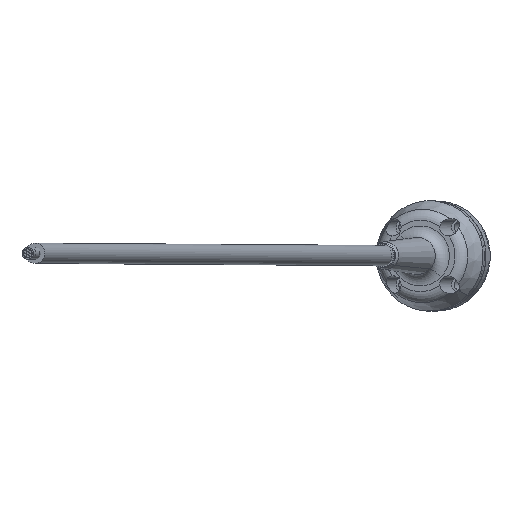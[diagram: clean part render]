
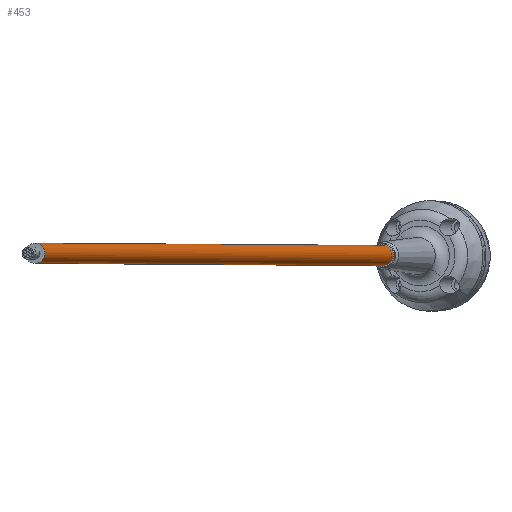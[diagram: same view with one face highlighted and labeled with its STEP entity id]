
A CAD part, top view. The second image highlights one B-rep face of the part: STEP entity #453.
In plain terms, the highlighted cylindrical face has radius 3.5 mm (diameter 7 mm), a partial arc.
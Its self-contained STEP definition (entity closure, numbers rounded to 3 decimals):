
#251 = EDGE_CURVE ( 'NONE', #252, #253, #2246, .T. ) ;
#252 = VERTEX_POINT ( 'NONE', #2247 ) ;
#253 = VERTEX_POINT ( 'NONE', #2289 ) ;
#254 = ORIENTED_EDGE ( 'NONE', *, *, #698, .T. ) ;
#255 = VERTEX_POINT ( 'NONE', #2322 ) ;
#453 = ADVANCED_FACE ( 'NONE', ( #2874 ), #2973, .T. ) ;
#454 = EDGE_LOOP ( 'NONE', ( #455, #254, #699, #721 ) ) ;
#455 = ORIENTED_EDGE ( 'NONE', *, *, #251, .T. ) ;
#698 = EDGE_CURVE ( 'NONE', #253, #255, #3453, .T. ) ;
#699 = ORIENTED_EDGE ( 'NONE', *, *, #700, .F. ) ;
#700 = EDGE_CURVE ( 'NONE', #720, #255, #3444, .T. ) ;
#720 = VERTEX_POINT ( 'NONE', #3622 ) ;
#721 = ORIENTED_EDGE ( 'NONE', *, *, #722, .F. ) ;
#722 = EDGE_CURVE ( 'NONE', #252, #720, #3516, .T. ) ;
#2246 = CIRCLE ( 'NONE', #2324, 3.5 ) ;
#2247 = CARTESIAN_POINT ( 'NONE',  ( 0., 10., 3.5 ) ) ;
#2273 = CARTESIAN_POINT ( 'NONE',  ( 0., 10., 0. ) ) ;
#2289 = CARTESIAN_POINT ( 'NONE',  ( 0., 10., -3.5 ) ) ;
#2322 = CARTESIAN_POINT ( 'NONE',  ( 0., 490., -3.5 ) ) ;
#2323 = DIRECTION ( 'NONE',  ( 0., 1., 0. ) ) ;
#2324 = AXIS2_PLACEMENT_3D ( 'NONE', #2273, #2323, #2350 ) ;
#2350 = DIRECTION ( 'NONE',  ( 0., 0., 1. ) ) ;
#2874 = FACE_OUTER_BOUND ( 'NONE', #454, .T. ) ;
#2970 = DIRECTION ( 'NONE',  ( 0., 0., 1. ) ) ;
#2971 = DIRECTION ( 'NONE',  ( 0., 1., 0. ) ) ;
#2972 = AXIS2_PLACEMENT_3D ( 'NONE', #2974, #2971, #2970 ) ;
#2973 = CYLINDRICAL_SURFACE ( 'NONE', #2972, 3.5 ) ;
#2974 = CARTESIAN_POINT ( 'NONE',  ( 0., 10., 0. ) ) ;
#3393 = DIRECTION ( 'NONE',  ( 0., 0., 1. ) ) ;
#3394 = DIRECTION ( 'NONE',  ( 0., 1., 0. ) ) ;
#3395 = CARTESIAN_POINT ( 'NONE',  ( 0., 490., 0. ) ) ;
#3444 = CIRCLE ( 'NONE', #3445, 3.5 ) ;
#3445 = AXIS2_PLACEMENT_3D ( 'NONE', #3395, #3394, #3393 ) ;
#3446 = DIRECTION ( 'NONE',  ( 0., 1., 0. ) ) ;
#3447 = VECTOR ( 'NONE', #3446, 1000. ) ;
#3448 = CARTESIAN_POINT ( 'NONE',  ( 0., 10., -3.5 ) ) ;
#3453 = LINE ( 'NONE', #3448, #3447 ) ;
#3513 = DIRECTION ( 'NONE',  ( 0., 1., 0. ) ) ;
#3514 = VECTOR ( 'NONE', #3513, 1000. ) ;
#3515 = CARTESIAN_POINT ( 'NONE',  ( 0., 10., 3.5 ) ) ;
#3516 = LINE ( 'NONE', #3515, #3514 ) ;
#3622 = CARTESIAN_POINT ( 'NONE',  ( 0., 490., 3.5 ) ) ;
